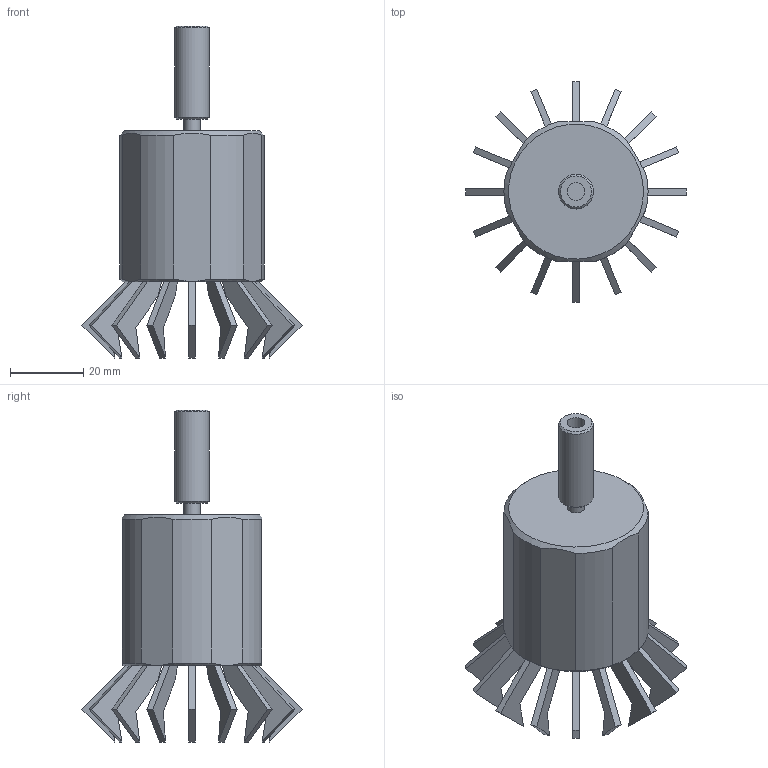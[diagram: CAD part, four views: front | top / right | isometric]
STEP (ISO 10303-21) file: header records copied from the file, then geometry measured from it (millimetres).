
FILE_DESCRIPTION((''),'2;1');
FILE_NAME('F:\CAD files\Itr\3D MARKETING MODELS\GRIPS\G1056\G1056.stp','2017-04-19T14:29:32',('mlampen'),(''),'Autodesk Inventor 2010','Autodesk Inventor 2010','');
FILE_SCHEMA(('AUTOMOTIVE_DESIGN { 1 0 10303 214 1 1 1 1 }'));
Length unit declared in the file: inch
Products named in the file (24): Assembly1; Part2; Part4; Part6; Part8; Part10; Part12; Part14; Part16; Part18; Part20; Part22; Part24; Part26; Part28; Part30; Part32; Part34; Part36; Part38; Part40; Part42; Part44; Part46
Assembly tree (23 placements, depth 2):
  Assembly1
    Part2
    Part4
    Part6
    Part8
    Part10
    Part12
    Part14
    Part16
    Part18
    Part20
    Part22
    Part24
    Part26
    Part28
    Part30
    Part32
    Part34
    Part36
    Part38
    Part40
    Part42
    Part44
    Part46
Bounding box: 60.11 x 60.11 x 90.63 mm (x, y, z)
Volume: 30475.9 mm3; surface area: 30382.5 mm2
Topology: 23 solids, 23 shells, 473 faces, 1272 edges, 848 vertices
Faces by surface type: plane 305, cylinder 162, cone 4, torus 2
Full cylindrical faces by diameter (mm): 1.651 x16, 4.547 x2, 4.572 x1, 4.826 x1, 5.842 x1, 6.045 x1, 6.604 x1, 9.525 x2, 11.303 x1, 11.811 x1, 34.925 x1
Entity records: 15488 total; most frequent: CARTESIAN_POINT 2617, DIRECTION 2594, ORIENTED_EDGE 2464, EDGE_CURVE 1232, VECTOR 886, LINE 886, AXIS2_PLACEMENT_3D 854, VERTEX_POINT 841
